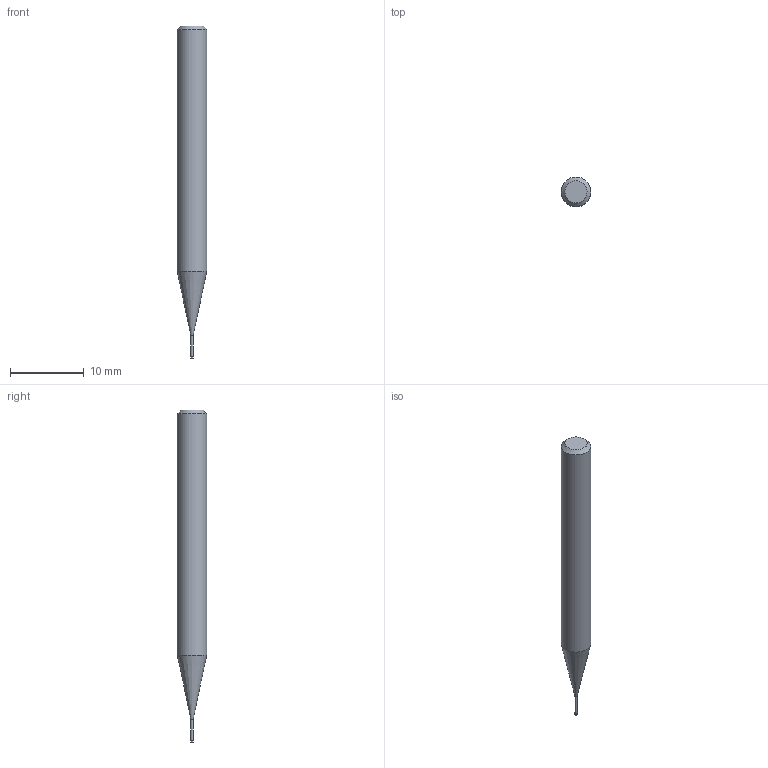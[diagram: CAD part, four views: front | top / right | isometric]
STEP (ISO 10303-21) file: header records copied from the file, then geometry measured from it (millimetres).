
FILE_DESCRIPTION((''),'2;1');
FILE_NAME('C:\Users\nsx150\AppData\Local\Temp\Mastercam 2021\RJ5U8K7RMU\TEMP.step','2021-04-21T16:39:39',(''),(''),'STEP Write','Mastercam 2021 ... CNC Software, Inc.','');
FILE_SCHEMA(('AUTOMOTIVE_DESIGN'));
Length unit declared in the file: millimetre
Products named in the file (1): None
Bounding box: 4 x 4 x 45 mm (x, y, z)
Volume: 456 mm3; surface area: 489.4 mm2
Topology: 2 solids, 2 shells, 9 faces, 12 edges, 7 vertices
Faces by surface type: plane 4, cylinder 3, cone 2
Full cylindrical faces by diameter (mm): 0.28 x1, 0.3 x1, 4 x1
Entity records: 211 total; most frequent: DIRECTION 36, CARTESIAN_POINT 25, AXIS2_PLACEMENT_3D 18, ORIENTED_EDGE 14, EDGE_LOOP 14, STYLED_ITEM 12, ADVANCED_FACE 9, FACE_BOUND 8
